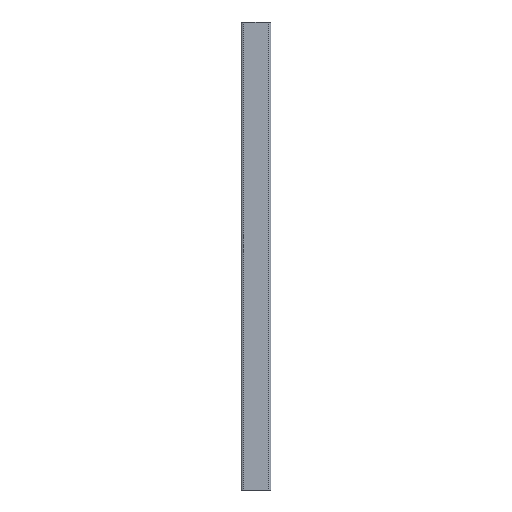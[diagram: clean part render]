
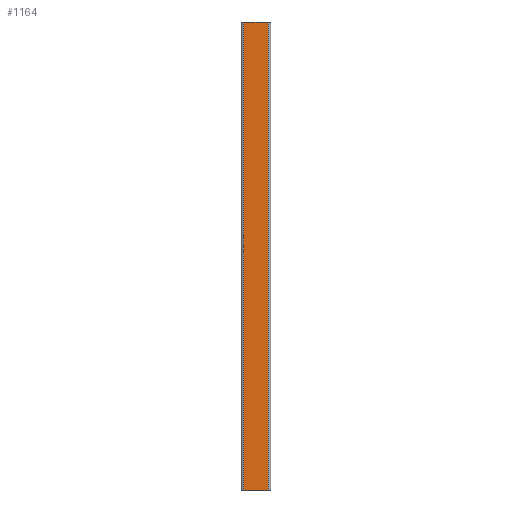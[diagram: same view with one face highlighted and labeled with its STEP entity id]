
A CAD part, left-side view. The second image highlights one B-rep face of the part: STEP entity #1164.
In plain terms, the highlighted planar face has unit normal (-1, 0, 0).
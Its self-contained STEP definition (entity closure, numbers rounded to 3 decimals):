
#9 = LINE ( 'NONE', #586, #473 ) ;
#23 = CARTESIAN_POINT ( 'NONE',  ( -9.5, -6.5, 250. ) ) ;
#56 = DIRECTION ( 'NONE',  ( 0., 0., -1. ) ) ;
#78 = EDGE_LOOP ( 'NONE', ( #1045, #343, #167, #351 ) ) ;
#164 = FACE_OUTER_BOUND ( 'NONE', #78, .T. ) ;
#167 = ORIENTED_EDGE ( 'NONE', *, *, #1065, .F. ) ;
#225 = VERTEX_POINT ( 'NONE', #1154 ) ;
#315 = VERTEX_POINT ( 'NONE', #1096 ) ;
#340 = LINE ( 'NONE', #1245, #937 ) ;
#343 = ORIENTED_EDGE ( 'NONE', *, *, #1136, .T. ) ;
#351 = ORIENTED_EDGE ( 'NONE', *, *, #938, .T. ) ;
#406 = VERTEX_POINT ( 'NONE', #1006 ) ;
#424 = DIRECTION ( 'NONE',  ( 0., 0., 1. ) ) ;
#473 = VECTOR ( 'NONE', #896, 1000. ) ;
#492 = CARTESIAN_POINT ( 'NONE',  ( -9.5, -6.5, -250. ) ) ;
#546 = CARTESIAN_POINT ( 'NONE',  ( -9.5, 19.5, 250. ) ) ;
#572 = VECTOR ( 'NONE', #949, 1000. ) ;
#586 = CARTESIAN_POINT ( 'NONE',  ( -9.5, 22.5, -250. ) ) ;
#620 = DIRECTION ( 'NONE',  ( 0., -1., 0. ) ) ;
#675 = CARTESIAN_POINT ( 'NONE',  ( -9.5, 22.5, 250. ) ) ;
#719 = LINE ( 'NONE', #23, #759 ) ;
#750 = DIRECTION ( 'NONE',  ( 1., 0., 0. ) ) ;
#759 = VECTOR ( 'NONE', #424, 1000. ) ;
#853 = LINE ( 'NONE', #546, #572 ) ;
#896 = DIRECTION ( 'NONE',  ( 0., -1., 0. ) ) ;
#918 = AXIS2_PLACEMENT_3D ( 'NONE', #675, #750, #56 ) ;
#937 = VECTOR ( 'NONE', #620, 1000. ) ;
#938 = EDGE_CURVE ( 'NONE', #406, #225, #853, .T. ) ;
#949 = DIRECTION ( 'NONE',  ( 0., 0., -1. ) ) ;
#1006 = CARTESIAN_POINT ( 'NONE',  ( -9.5, 19.5, 250. ) ) ;
#1045 = ORIENTED_EDGE ( 'NONE', *, *, #1309, .T. ) ;
#1065 = EDGE_CURVE ( 'NONE', #406, #315, #340, .T. ) ;
#1070 = PLANE ( 'NONE',  #918 ) ;
#1096 = CARTESIAN_POINT ( 'NONE',  ( -9.5, -6.5, 250. ) ) ;
#1136 = EDGE_CURVE ( 'NONE', #1255, #315, #719, .T. ) ;
#1154 = CARTESIAN_POINT ( 'NONE',  ( -9.5, 19.5, -250. ) ) ;
#1164 = ADVANCED_FACE ( 'NONE', ( #164 ), #1070, .F. ) ;
#1245 = CARTESIAN_POINT ( 'NONE',  ( -9.5, 22.5, 250. ) ) ;
#1255 = VERTEX_POINT ( 'NONE', #492 ) ;
#1309 = EDGE_CURVE ( 'NONE', #225, #1255, #9, .T. ) ;
